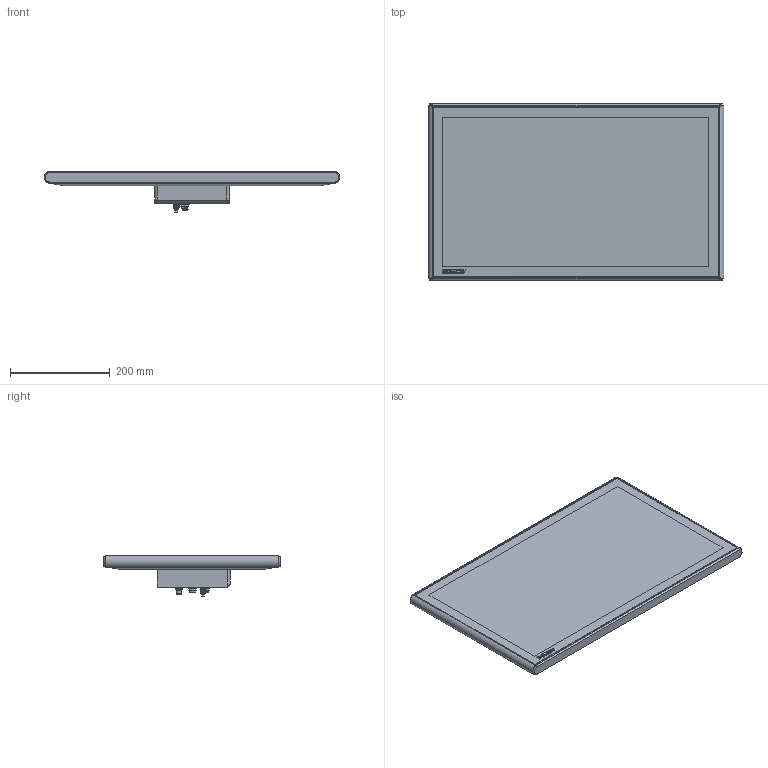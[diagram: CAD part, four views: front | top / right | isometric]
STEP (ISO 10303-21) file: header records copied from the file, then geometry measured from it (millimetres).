
FILE_DESCRIPTION(/* description */ ('-'),/* implementation_level */ '2;1');
FILE_NAME(/* name */ 'C:\Export\0000011635.stp',/* time_stamp */ '2022-01-03T12:26:11+01:00',/* author */ ('-'),/* organization */ ('(c) Beckhoff Automation GmbH & Co. KG, 33415 Verl'),/* preprocessor_version */ 'ST-DEVELOPER v18.1',/* originating_system */ 'Autodesk Inventor 2020',/* authorisation */ '-');
FILE_SCHEMA (('AUTOMOTIVE_DESIGN { 1 0 10303 214 3 1 1 }'));
Length unit declared in the file: millimetre
Products named in the file (1): 0000011635_CP3924-0000-M362
Bounding box: 592.13 x 352.2 x 81.7 mm (x, y, z)
Volume: 6336128.6 mm3; surface area: 524238.6 mm2
Topology: 1 solids, 13 shells, 1139 faces, 3006 edges, 2007 vertices
Faces by surface type: plane 541, cylinder 317, bspline 209, cone 34, sphere 31, torus 7
Full cylindrical faces by diameter (mm): 0.5 x8, 0.7 x19, 1 x31, 3.242 x1, 3.4 x1, 3.8 x1, 4 x1, 4.917 x8, 5 x4, 5.2 x4, 5.5 x8, 6 x3, 6.4 x2, 6.6 x1, 7.9 x1, 8 x1, 8.3 x1, 8.5 x4, 8.8 x4, 9 x5, 10 x1, 10.5 x1, 12 x2, 12.2 x1, 13.5 x2, 14.5 x1, 15.4 x1, 16 x1, 21 x1, 24 x1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
Entity records: 39900 total; most frequent: CARTESIAN_POINT 11175, ORIENTED_EDGE 5940, DIRECTION 5132, EDGE_CURVE 2970, VERTEX_POINT 2006, AXIS2_PLACEMENT_3D 1753, LINE 1626, VECTOR 1626
